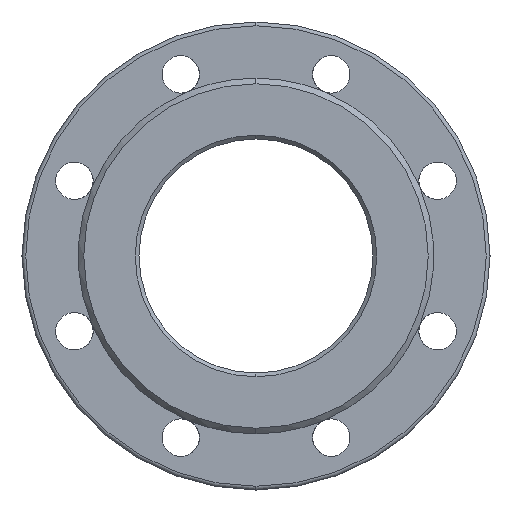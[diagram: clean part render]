
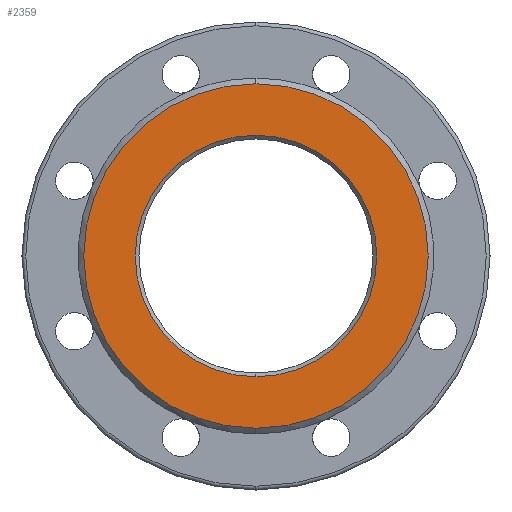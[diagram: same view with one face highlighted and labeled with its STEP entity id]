
A CAD part, left-side view. The second image highlights one B-rep face of the part: STEP entity #2359.
In plain terms, the highlighted planar face has unit normal (-1, 0, 0).
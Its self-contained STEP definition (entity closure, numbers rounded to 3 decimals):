
#38 = EDGE_CURVE ( 'Defeatured_0_3+Defeatured_0_20+Defeatured_0_20+Defeatured_0_20', #2775, #1596, #1249, .T. ) ;
#385 = CARTESIAN_POINT ( 'NONE',  ( -350., 0., -64.5 ) ) ;
#576 = AXIS2_PLACEMENT_3D ( 'NONE', #2642, #4120, #4093 ) ;
#869 = CARTESIAN_POINT ( 'NONE',  ( -350., 62.5, 0. ) ) ;
#963 = CIRCLE ( 'NONE', #1114, 92. ) ;
#1039 = EDGE_CURVE ( 'Defeatured_0_3+Defeatured_0_20+Defeatured_0_20+Defeatured_0_20', #1596, #2775, #1768, .T. ) ;
#1114 = AXIS2_PLACEMENT_3D ( 'NONE', #1192, #4064, #2374 ) ;
#1128 = EDGE_LOOP ( 'NONE', ( #3863, #1308 ) ) ;
#1192 = CARTESIAN_POINT ( 'NONE',  ( -350., 0., 0. ) ) ;
#1213 = VERTEX_POINT ( 'NONE', #2754 ) ;
#1249 = CIRCLE ( 'NONE', #1853, 64.5 ) ;
#1308 = ORIENTED_EDGE ( 'NONE', *, *, #38, .T. ) ;
#1376 = CARTESIAN_POINT ( 'NONE',  ( -350., 0., -92. ) ) ;
#1555 = DIRECTION ( 'NONE',  ( 1., 0., 0. ) ) ;
#1596 = VERTEX_POINT ( 'NONE', #1823 ) ;
#1633 = AXIS2_PLACEMENT_3D ( 'NONE', #869, #3394, #3698 ) ;
#1768 = CIRCLE ( 'NONE', #4253, 64.5 ) ;
#1823 = CARTESIAN_POINT ( 'NONE',  ( -350., 0., 64.5 ) ) ;
#1853 = AXIS2_PLACEMENT_3D ( 'NONE', #2093, #3152, #2116 ) ;
#1934 = FACE_BOUND ( 'NONE', #1128, .T. ) ;
#2093 = CARTESIAN_POINT ( 'NONE',  ( -350., 0., 0. ) ) ;
#2116 = DIRECTION ( 'NONE',  ( 0., 0., -1. ) ) ;
#2359 = ADVANCED_FACE ( 'Defeatured_0_3', ( #1934, #3370 ), #2662, .F. ) ;
#2374 = DIRECTION ( 'NONE',  ( 0., 0., 1. ) ) ;
#2413 = EDGE_CURVE ( 'Defeatured_0_3+Defeatured_0_4+Defeatured_0_4+Defeatured_0_4', #4381, #1213, #2922, .T. ) ;
#2616 = CARTESIAN_POINT ( 'NONE',  ( -350., 0., 0. ) ) ;
#2642 = CARTESIAN_POINT ( 'NONE',  ( -350., 0., 0. ) ) ;
#2662 = PLANE ( 'NONE',  #1633 ) ;
#2728 = ORIENTED_EDGE ( 'NONE', *, *, #2413, .T. ) ;
#2754 = CARTESIAN_POINT ( 'NONE',  ( -350., 0., 92. ) ) ;
#2775 = VERTEX_POINT ( 'NONE', #385 ) ;
#2914 = EDGE_CURVE ( 'Defeatured_0_3+Defeatured_0_4+Defeatured_0_4+Defeatured_0_4', #1213, #4381, #963, .T. ) ;
#2922 = CIRCLE ( 'NONE', #576, 92. ) ;
#2930 = DIRECTION ( 'NONE',  ( 0., 0., -1. ) ) ;
#3152 = DIRECTION ( 'NONE',  ( 1., 0., 0. ) ) ;
#3370 = FACE_OUTER_BOUND ( 'NONE', #3810, .T. ) ;
#3394 = DIRECTION ( 'NONE',  ( 1., 0., 0. ) ) ;
#3698 = DIRECTION ( 'NONE',  ( 0., 0., -1. ) ) ;
#3810 = EDGE_LOOP ( 'NONE', ( #2728, #3821 ) ) ;
#3821 = ORIENTED_EDGE ( 'NONE', *, *, #2914, .T. ) ;
#3863 = ORIENTED_EDGE ( 'NONE', *, *, #1039, .T. ) ;
#4064 = DIRECTION ( 'NONE',  ( -1., 0., 0. ) ) ;
#4093 = DIRECTION ( 'NONE',  ( 0., 0., 1. ) ) ;
#4120 = DIRECTION ( 'NONE',  ( -1., 0., 0. ) ) ;
#4253 = AXIS2_PLACEMENT_3D ( 'NONE', #2616, #1555, #2930 ) ;
#4381 = VERTEX_POINT ( 'NONE', #1376 ) ;
